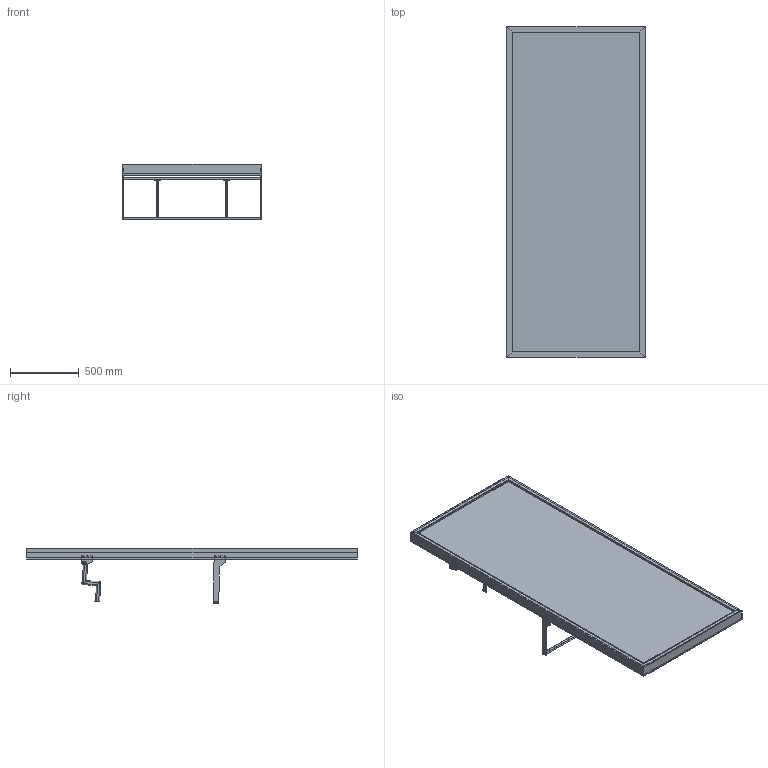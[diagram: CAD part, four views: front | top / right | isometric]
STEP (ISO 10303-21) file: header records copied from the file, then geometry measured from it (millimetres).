
FILE_DESCRIPTION (( 'STEP AP203' ), '1' );
FILE_NAME ('Hybrid Single Boutique Merchandising Wall (Config 3).STEP', '2026-03-31T09:02:04', ( '' ), ( '' ), 'SwSTEP 2.0', 'SolidWorks 2025', '' );
FILE_SCHEMA (( 'CONFIG_CONTROL_DESIGN' ));
Length unit declared in the file: millimetre
Products named in the file (11): 0001-31-131.STEP; 0001-31-100.STEP; 0001-31-SA25 - 1005W Side Facing D Rail_Assem9; Hybrid Single Boutique Merchandising Wall (Config 3); 0001-31-SA26 - 1005W Rear support Bar.STEP; 0001-31-SA24 - Step Arm; 0001-31-130.STEP; 0001-31-SA26 - 1005W Rear support Bar_Assem8; 0001-31-GA10 - 1005W Slotted upbright; 0001-31-SA25 - 1005W Side Facing D Rail.STEP; 0001-31-103.STEP
Assembly tree (13 placements, depth 4):
  Hybrid Single Boutique Merchandising Wall (Config 3)
    0001-31-GA10 - 1005W Slotted upbright
    0001-31-SA24 - Step Arm  x2
    0001-31-SA25 - 1005W Side Facing D Rail_Assem9
      0001-31-SA25 - 1005W Side Facing D Rail.STEP
        0001-31-100.STEP  x2
        0001-31-130.STEP
    0001-31-SA26 - 1005W Rear support Bar_Assem8
      0001-31-SA26 - 1005W Rear support Bar.STEP
        0001-31-103.STEP  x2
        0001-31-131.STEP
Bounding box: 1005.74 x 2400 x 404.75 mm (x, y, z)
Volume: 8385613 mm3; surface area: 12416739.9 mm2
Topology: 24 solids, 24 shells, 946 faces, 3118 edges, 2068 vertices
Faces by surface type: plane 760, cylinder 178, torus 8
Entity records: 31017 total; most frequent: CARTESIAN_POINT 6040, ORIENTED_EDGE 5428, DIRECTION 4294, EDGE_CURVE 2714, LINE 2470, VECTOR 2470, VERTEX_POINT 1804, EDGE_LOOP 968
